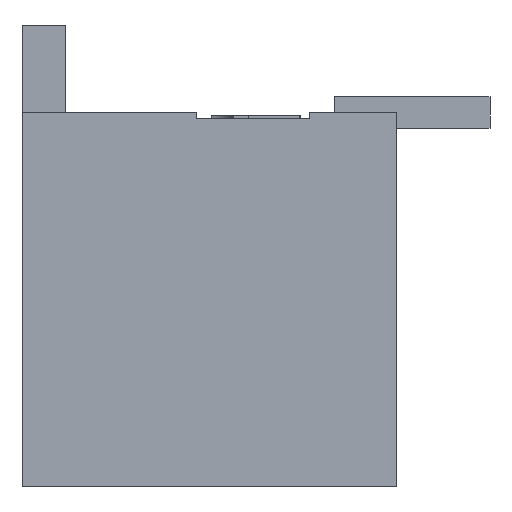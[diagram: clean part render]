
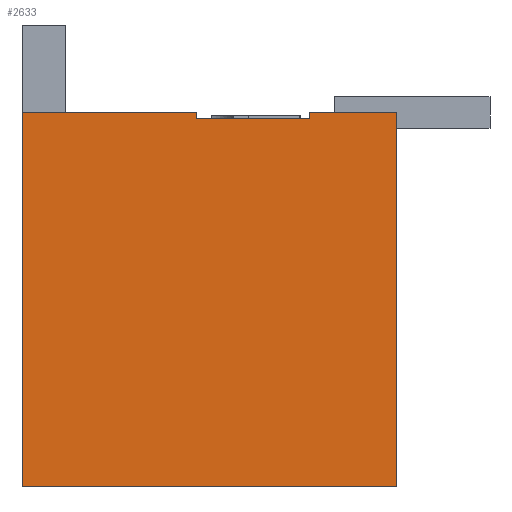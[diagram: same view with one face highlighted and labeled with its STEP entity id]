
A CAD part, left-side view. The second image highlights one B-rep face of the part: STEP entity #2633.
In plain terms, the highlighted planar face has unit normal (-1, 0, 0).
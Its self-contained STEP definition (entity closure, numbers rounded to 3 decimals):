
#221=FACE_OUTER_BOUND('',#364,.T.);
#364=EDGE_LOOP('',(#1926,#1927,#1928,#1929,#1930,#1931,#1932,#1933));
#548=LINE('',#3999,#843);
#551=LINE('',#4005,#846);
#555=LINE('',#4012,#850);
#556=LINE('',#4016,#851);
#557=LINE('',#4018,#852);
#558=LINE('',#4020,#853);
#559=LINE('',#4022,#854);
#560=LINE('',#4023,#855);
#843=VECTOR('',#3022,10.);
#846=VECTOR('',#3027,10.);
#850=VECTOR('',#3033,10.);
#851=VECTOR('',#3038,10.);
#852=VECTOR('',#3039,10.);
#853=VECTOR('',#3040,10.);
#854=VECTOR('',#3041,10.);
#855=VECTOR('',#3042,10.);
#1137=VERTEX_POINT('',#3996);
#1138=VERTEX_POINT('',#3998);
#1139=VERTEX_POINT('',#4002);
#1142=VERTEX_POINT('',#4009);
#1143=VERTEX_POINT('',#4015);
#1144=VERTEX_POINT('',#4017);
#1145=VERTEX_POINT('',#4019);
#1146=VERTEX_POINT('',#4021);
#1418=EDGE_CURVE('',#1138,#1137,#548,.T.);
#1421=EDGE_CURVE('',#1137,#1139,#551,.T.);
#1425=EDGE_CURVE('',#1142,#1138,#555,.T.);
#1426=EDGE_CURVE('',#1143,#1139,#556,.T.);
#1427=EDGE_CURVE('',#1143,#1144,#557,.T.);
#1428=EDGE_CURVE('',#1145,#1144,#558,.T.);
#1429=EDGE_CURVE('',#1146,#1145,#559,.T.);
#1430=EDGE_CURVE('',#1142,#1146,#560,.T.);
#1926=ORIENTED_EDGE('',*,*,#1425,.T.);
#1927=ORIENTED_EDGE('',*,*,#1418,.T.);
#1928=ORIENTED_EDGE('',*,*,#1421,.T.);
#1929=ORIENTED_EDGE('',*,*,#1426,.F.);
#1930=ORIENTED_EDGE('',*,*,#1427,.T.);
#1931=ORIENTED_EDGE('',*,*,#1428,.F.);
#1932=ORIENTED_EDGE('',*,*,#1429,.F.);
#1933=ORIENTED_EDGE('',*,*,#1430,.F.);
#2332=PLANE('',#2774);
#2633=ADVANCED_FACE('',(#221),#2332,.T.);
#2774=AXIS2_PLACEMENT_3D('',#4014,#3036,#3037);
#3022=DIRECTION('',(0.,1.,0.));
#3027=DIRECTION('',(0.,0.,1.));
#3033=DIRECTION('',(0.,0.,-1.));
#3036=DIRECTION('center_axis',(-1.,0.,0.));
#3037=DIRECTION('ref_axis',(0.,1.,0.));
#3038=DIRECTION('',(0.,-1.,0.));
#3039=DIRECTION('',(0.,0.,-1.));
#3040=DIRECTION('',(0.,1.,0.));
#3041=DIRECTION('',(0.,0.,-1.));
#3042=DIRECTION('',(0.,-1.,0.));
#3996=CARTESIAN_POINT('',(-5.75,0.2,-0.1));
#3998=CARTESIAN_POINT('',(-5.75,-1.6,-0.1));
#3999=CARTESIAN_POINT('',(-5.75,-1.85,-0.1));
#4002=CARTESIAN_POINT('',(-5.75,0.2,0.));
#4005=CARTESIAN_POINT('',(-5.75,0.2,0.));
#4009=CARTESIAN_POINT('',(-5.75,-1.6,0.));
#4012=CARTESIAN_POINT('',(-5.75,-1.6,0.));
#4014=CARTESIAN_POINT('Origin',(-5.75,-3.,0.));
#4015=CARTESIAN_POINT('',(-5.75,3.,0.));
#4016=CARTESIAN_POINT('',(-5.75,3.,0.));
#4017=CARTESIAN_POINT('',(-5.75,3.,-6.));
#4018=CARTESIAN_POINT('',(-5.75,3.,0.));
#4019=CARTESIAN_POINT('',(-5.75,-3.,-6.));
#4020=CARTESIAN_POINT('',(-5.75,3.,-6.));
#4021=CARTESIAN_POINT('',(-5.75,-3.,0.));
#4022=CARTESIAN_POINT('',(-5.75,-3.,0.));
#4023=CARTESIAN_POINT('',(-5.75,3.,0.));
